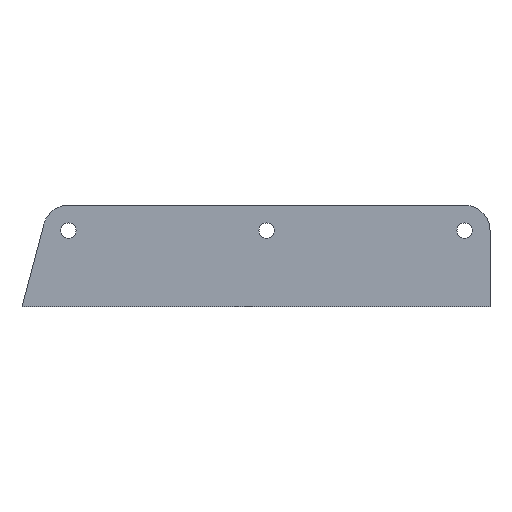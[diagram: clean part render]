
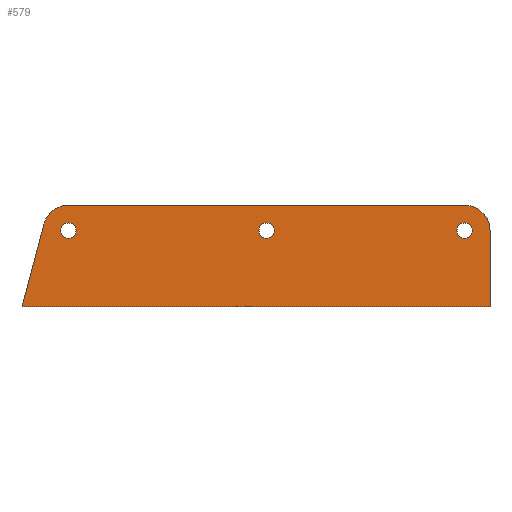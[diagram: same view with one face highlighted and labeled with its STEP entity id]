
A CAD part, top view. The second image highlights one B-rep face of the part: STEP entity #579.
In plain terms, the highlighted planar face has unit normal (0, 0, 1).
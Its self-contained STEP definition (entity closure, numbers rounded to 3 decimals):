
#267=PLANE('',#561);
#269=CIRCLE('',#547,15.);
#271=CIRCLE('',#553,15.);
#275=CIRCLE('',#560,4.5);
#276=CIRCLE('',#562,4.5);
#277=CIRCLE('',#563,4.5);
#313=ORIENTED_EDGE('',*,*,#375,.T.);
#314=ORIENTED_EDGE('',*,*,#389,.F.);
#315=ORIENTED_EDGE('',*,*,#387,.F.);
#316=ORIENTED_EDGE('',*,*,#384,.F.);
#317=ORIENTED_EDGE('',*,*,#381,.F.);
#318=ORIENTED_EDGE('',*,*,#378,.F.);
#319=ORIENTED_EDGE('',*,*,#393,.F.);
#320=ORIENTED_EDGE('',*,*,#394,.F.);
#321=ORIENTED_EDGE('',*,*,#395,.F.);
#330=VECTOR('',#448,1.);
#333=VECTOR('',#453,1.);
#336=VECTOR('',#458,1.);
#339=VECTOR('',#469,1.);
#344=LINE('',#506,#330);
#347=LINE('',#512,#333);
#350=LINE('',#518,#336);
#353=LINE('',#527,#339);
#355=VERTEX_POINT('',#494);
#357=VERTEX_POINT('',#498);
#359=VERTEX_POINT('',#503);
#361=VERTEX_POINT('',#509);
#363=VERTEX_POINT('',#515);
#365=VERTEX_POINT('',#521);
#369=VERTEX_POINT('',#536);
#370=VERTEX_POINT('',#539);
#371=VERTEX_POINT('',#541);
#375=EDGE_CURVE('',#355,#357,#269,.T.);
#378=EDGE_CURVE('',#355,#359,#344,.T.);
#381=EDGE_CURVE('',#359,#361,#347,.T.);
#384=EDGE_CURVE('',#361,#363,#350,.T.);
#387=EDGE_CURVE('',#363,#365,#271,.T.);
#389=EDGE_CURVE('',#365,#357,#353,.T.);
#393=EDGE_CURVE('',#369,#369,#275,.T.);
#394=EDGE_CURVE('',#370,#370,#276,.T.);
#395=EDGE_CURVE('',#371,#371,#277,.T.);
#408=EDGE_LOOP('',(#313,#314,#315,#316,#317,#318));
#409=EDGE_LOOP('',(#319));
#410=EDGE_LOOP('',(#320));
#411=EDGE_LOOP('',(#321));
#428=FACE_BOUND('',#408,.T.);
#429=FACE_BOUND('',#409,.T.);
#430=FACE_BOUND('',#410,.T.);
#431=FACE_BOUND('',#411,.T.);
#442=DIRECTION('',(0.,0.,1.));
#443=DIRECTION('',(0.,15.,0.));
#448=DIRECTION('',(0.,-45.,0.));
#453=DIRECTION('',(-276.03,0.,0.));
#458=DIRECTION('',(12.902,48.832,0.));
#464=DIRECTION('',(0.,0.,-1.));
#465=DIRECTION('',(0.,-15.,0.));
#469=DIRECTION('',(233.626,0.,0.));
#480=DIRECTION('',(0.,0.,1.));
#481=DIRECTION('',(0.,-4.5,0.));
#482=DIRECTION('',(0.,0.,1.));
#483=DIRECTION('',(0.,-1.,0.));
#484=DIRECTION('',(0.,0.,1.));
#485=DIRECTION('',(0.,-4.5,0.));
#486=DIRECTION('',(0.,0.,1.));
#487=DIRECTION('',(0.,-4.5,0.));
#494=CARTESIAN_POINT('',(5932.004,12991.36,8.));
#498=CARTESIAN_POINT('',(5917.004,13006.36,8.));
#500=CARTESIAN_POINT('',(5917.004,12991.36,8.));
#503=CARTESIAN_POINT('',(5932.004,12946.36,8.));
#506=CARTESIAN_POINT('',(5932.004,12991.36,8.));
#509=CARTESIAN_POINT('',(5655.973,12946.36,8.));
#512=CARTESIAN_POINT('',(5932.004,12946.36,8.));
#515=CARTESIAN_POINT('',(5668.875,12995.192,8.));
#518=CARTESIAN_POINT('',(5655.973,12946.36,8.));
#521=CARTESIAN_POINT('',(5683.378,13006.36,8.));
#524=CARTESIAN_POINT('',(5683.378,12991.36,8.));
#527=CARTESIAN_POINT('',(5683.378,13006.36,8.));
#536=CARTESIAN_POINT('',(5683.378,12986.86,8.));
#537=CARTESIAN_POINT('',(5683.378,12991.36,8.));
#538=CARTESIAN_POINT('',(0.,0.,8.));
#539=CARTESIAN_POINT('',(5917.004,12986.86,8.));
#540=CARTESIAN_POINT('',(5917.004,12991.36,8.));
#541=CARTESIAN_POINT('',(5800.191,12986.86,8.));
#542=CARTESIAN_POINT('',(5800.191,12991.36,8.));
#547=AXIS2_PLACEMENT_3D('',#500,#442,#443);
#553=AXIS2_PLACEMENT_3D('',#524,#464,#465);
#560=AXIS2_PLACEMENT_3D('',#537,#480,#481);
#561=AXIS2_PLACEMENT_3D('',#538,#482,#483);
#562=AXIS2_PLACEMENT_3D('',#540,#484,#485);
#563=AXIS2_PLACEMENT_3D('',#542,#486,#487);
#579=ADVANCED_FACE('',(#428,#429,#430,#431),#267,.T.);
